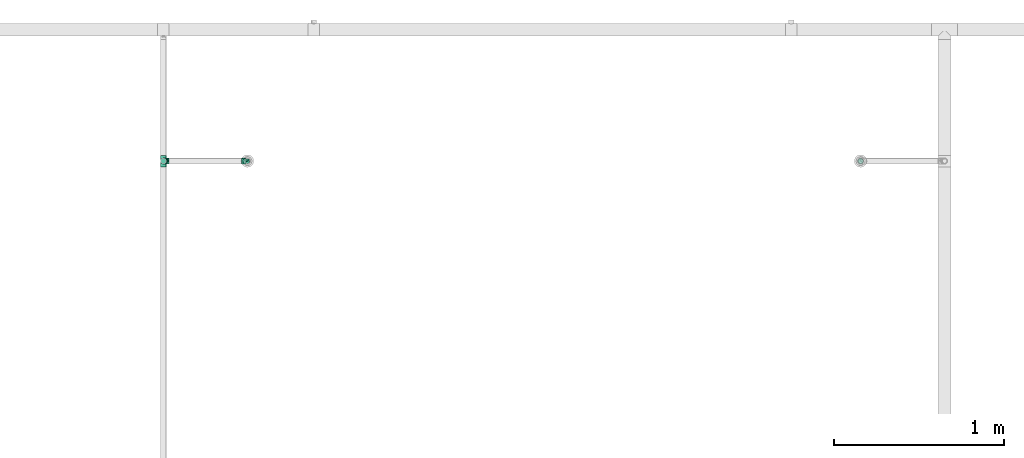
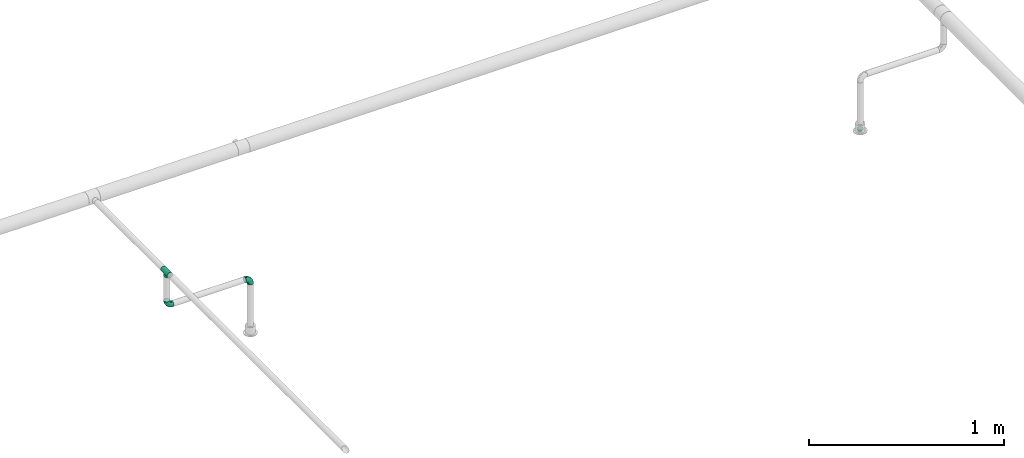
# One storey, part 80 of 95: 4 flow fittings.
"""IFC2X3 building model written with IfcOpenShell, lengths in millimetres."""

from ifc_helpers import new_model, entity, si_unit, converted_unit, derived_unit, direction, frame, origin_with_axes, place, context, subcontext, project, spatial, open_shell, surface_model, source, transform, mapped, type_object, element, save


model = new_model("IFC2X3")

# Units and contexts
model_context = context("Model", 3, precision=0.01, world=frame((0.0, 4.29681676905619e-09, 0.0)), true_north=direction((4.01073788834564e-13, 1.0)))
plan_context = context("Plan", 3, precision=0.01, world=frame((0.0, 4.29681676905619e-09, 0.0)), true_north=direction((4.01073788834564e-13, 1.0)))
body_context = subcontext(model_context, "Body", "Model", "MODEL_VIEW")
ifc_project = project(units=[converted_unit("PLANEANGLEUNIT", "DEGREE", entity("IfcPositiveLengthMeasure", 0.0174532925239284), si_unit("PLANEANGLEUNIT", "RADIAN"), dimensions=[0, 0, 0, 0, 0, 0, 0]), si_unit("AREAUNIT", "SQUARE_METRE"), si_unit("LENGTHUNIT", "METRE", prefix="MILLI"), si_unit("MASSUNIT", "GRAM", prefix="KILO"), si_unit("POWERUNIT", "WATT"), si_unit("PRESSUREUNIT", "PASCAL"), si_unit("FORCEUNIT", "NEWTON", prefix="KILO"), si_unit("ELECTRICVOLTAGEUNIT", "VOLT"), si_unit("ELECTRICCURRENTUNIT", "AMPERE"), si_unit("THERMODYNAMICTEMPERATUREUNIT", "DEGREE_CELSIUS"), si_unit("TIMEUNIT", "SECOND"), si_unit("VOLUMEUNIT", "CUBIC_METRE"), derived_unit("LINEARVELOCITYUNIT", [(si_unit("LENGTHUNIT", "METRE"), 1), (si_unit("TIMEUNIT", "SECOND"), -1)]), derived_unit("VOLUMETRICFLOWRATEUNIT", [(si_unit("VOLUMEUNIT", "CUBIC_METRE"), 1), (si_unit("TIMEUNIT", "SECOND"), -1)]), derived_unit("THERMALTRANSMITTANCEUNIT", [(si_unit("POWERUNIT", "WATT"), 1), (si_unit("THERMODYNAMICTEMPERATUREUNIT", "KELVIN"), -1), (si_unit("AREAUNIT", "SQUARE_METRE"), -1)]), derived_unit("SOUNDPRESSUREUNIT", [(si_unit("PRESSUREUNIT", "PASCAL"), 1)])], contexts=[model_context, plan_context])

# Site, building, storey
site_placement = place(None, frame((0.0, -4.29681676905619e-09, 0.0), z_axis=(0.0, 0.0, 1.0), x_axis=(1.0, 0.0, 0.0)))
site = spatial("IfcSite", under=ifc_project, at=site_placement, CompositionType="ELEMENT")
building_placement = place(site_placement, frame((0.0, 4.29681676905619e-09, 0.0), z_axis=(0.0, 0.0, 1.0), x_axis=(1.0, 0.0, 0.0)))
building = spatial("IfcBuilding", under=site, at=building_placement, Name="mc-building", CompositionType="ELEMENT")
storey_placement = place(building_placement, frame((0.0, 0.0, 210900.0), z_axis=(0.0, 0.0, 1.0), x_axis=(1.0, 0.0, 0.0)))
storey = spatial("IfcBuildingStorey", under=building, at=storey_placement, Name="Nivå F", CompositionType="ELEMENT", Elevation=210900.0)

# Flow fittings
pipe_fitting_type_1 = type_object("IfcPipeFittingType", Name="magi_pipe_fe_elbow_short_001", PredefinedType="BEND")
shared_shape_1 = source(origin_with_axes(), body_context, "Body", "SurfaceModel", [
    surface_model("IfcShellBasedSurfaceModel", [(-33.8, 8.45, -14.63583), (-33.8, 4.37404, -16.32415), (-33.8, 11.9501, -11.9501), (-33.8, -11.9501, -11.9501), (-33.8, -14.63583, -8.45), (-33.8, -8.45, -14.63583), (-33.8, 0.0, -16.9), (-33.8, -4.37404, -16.32415), (-33.8, -4.37404, 16.32415), (-33.8, 0.0, 16.9), (-33.8, -8.45, 14.63583), (-33.8, 16.32415, -4.37404), (-33.8, 14.63583, -8.45), (-33.8, -16.32415, -4.37404), (-33.8, -16.9, 0.0), (-33.8, -16.32415, 4.37404), (-33.8, 11.9501, 11.9501), (-33.8, 14.63583, 8.45), (-33.8, 16.32415, 4.37404), (-33.8, 4.37404, 16.32415), (-33.8, 8.45, 14.63583), (-33.8, -14.63583, 8.45), (-33.8, -11.9501, 11.9501), (-33.8, 16.9, 0.0), (-11.9501, 33.8, -11.9501), (0.0, 33.8, -16.9), (-4.37404, 33.8, -16.32415), (-8.45, 33.8, -14.63583), (-14.63583, 33.8, -8.45), (-16.32415, 33.8, -4.37404), (14.63583, 33.8, -8.45), (8.45, 33.8, 14.63583), (16.32415, 33.8, -4.37404), (8.45, 33.8, -14.63583), (11.9501, 33.8, -11.9501), (4.37404, 33.8, -16.32415), (16.32415, 33.8, 4.37404), (16.9, 33.8, 0.0), (-11.9501, 33.8, 11.9501), (-16.32415, 33.8, 4.37404), (-14.63583, 33.8, 8.45), (-8.45, 33.8, 14.63583), (-4.37404, 33.8, 16.32415), (11.9501, 33.8, 11.9501), (14.63583, 33.8, 8.45), (0.0, 33.8, 16.9), (4.37404, 33.8, 16.32415), (-16.9, 33.8, 0.0), (-24.79389, -13.12945, 9.48721), (-22.19287, -9.75018, 12.59315), (-24.09897, -14.97035, 0.0), (-14.93934, -10.76256, 8.5297), (-22.46095, -14.75051, 5.27077), (14.75051, 22.46094, 5.27077), (11.9251, 13.23888, 4.33236), (13.04069, 14.39795, 0.0), (7.71387, 13.68847, 11.55891), (9.75018, 22.19287, 12.59315), (4.10169, 13.0571, 14.04018), (-24.84007, -6.39063, 15.2048), (-25.81779, -2.23879, 16.61097), (-23.66549, 2.59054, 16.87119), (-26.50418, 14.06512, 11.08152), (-24.21253, 17.66365, 7.72657), (-29.58514, 15.86957, 7.00283), (-6.17382, -7.5455, 0.0), (-13.23888, -11.9251, 4.33236), (-14.39795, -13.04069, 0.0), (-17.81434, 18.87373, 11.97104), (-6.30846, 29.15138, 15.82987), (-2.31622, 25.28002, 16.85849), (-29.23923, 10.23435, 13.77053), (-1.45439, -2.85688, 7.61475), (-0.28326, 0.34872, 10.09509), (-5.74484, -4.04709, 10.4122), (-4.41137, 11.31918, 16.59407), (-8.39727, 3.10034, 15.7812), (-1.72649, 9.1306, 15.53089), (-17.39909, 24.75344, 7.64977), (-26.19233, 20.0512, 0.0), (-28.14518, 17.29657, 4.25857), (-26.05147, 6.6281, 15.96447), (-5.87354, 16.61944, 16.86968), (-12.51807, 12.51807, 16.48937), (-10.06312, 7.38516, 16.81295), (-3.01882, 3.01882, 13.81718), (-13.0571, -4.10169, 14.04018), (-16.82553, -0.15166, 16.38038), (10.76256, 14.93934, 8.5297), (13.12945, 24.79389, 9.48721), (6.39063, 24.84007, 15.2048), (2.23879, 25.81779, 16.61097), (-13.68847, -7.71387, 11.55891), (14.97035, 24.09897, 0.0), (-7.30894, 22.89991, 16.09489), (-10.67958, 26.17414, 14.008), (-12.78295, 18.26924, 15.06066), (-13.88562, 22.45231, 12.93244), (-18.04944, 15.16501, 14.04434), (-23.11658, 20.08178, 4.02986), (-21.84989, 21.84989, 0.0), (-18.55817, 25.48277, 3.93065), (-13.95142, 26.94732, 11.03289), (-18.57098, 7.23906, 16.59756), (-16.58335, 4.14122, 16.89279), (-17.96666, 11.46709, 15.63151), (-9.84453, 17.54304, 16.18938), (0.15166, 16.82553, 16.38038), (-23.27207, 11.47201, 14.23154), (3.84842, 5.86994, 10.70473), (-8.0212, -7.54413, 7.93275), (1.00345, -2.19508, 4.57414), (5.13203, 3.01004, 5.90201), (5.24161, 1.7543, 2.53265), (8.70457, 7.04947, 3.99182), (-20.0512, 26.19233, 0.0), (8.4852, 8.76699, 7.09296), (-4.55488, -6.72064, 4.90681), (2.05031, -2.05031, 0.0), (7.5455, 6.17382, 0.0), (-26.75399, 2.1369, -16.845), (-14.61995, 24.73803, -11.27736), (-28.45274, -13.45335, -9.81895), (-26.00469, 6.63555, -15.96645), (-23.06726, 20.04573, -4.26202), (-13.80647, -4.26506, -14.17873), (-14.67501, -0.21081, -16.07388), (-6.7902, -0.2828, -13.8478), (-24.53586, 11.08096, -14.13417), (-26.72048, 14.00837, -11.05776), (10.0967, 24.44989, -12.75976), (5.83237, 21.40218, -15.03047), (6.66249, 28.54238, -15.38093), (-20.38182, 15.48705, -12.74596), (12.53268, 21.23441, -9.15363), (12.54494, 15.67504, -5.54878), (9.7522, 12.89279, -8.66343), (-15.65186, 19.64213, -13.01327), (-12.03528, 20.66498, -14.67665), (-15.61907, 15.61906, -14.83879), (-25.56551, -15.26206, 0.0), (-24.65452, -15.12934, -5.50955), (13.45335, 28.45274, -9.81895), (15.12934, 24.65452, -5.50955), (-7.35442, -8.31014, -5.65563), (-15.67504, -12.54494, -5.54878), (-24.44989, -10.0967, -12.75976), (0.16522, 0.41303, -9.71728), (-5.70658, -5.33066, -8.89288), (-5.13869, -2.37198, -11.53565), (-21.23441, -12.53268, -9.15363), (0.71146, 7.93863, -14.09382), (0.21081, 14.67501, -16.07388), (3.49291, 14.42772, -14.76381), (-24.89911, -2.13088, -16.591), (-28.54238, -6.66249, -15.38093), (-18.44386, -7.71663, -13.26957), (2.13088, 24.89911, -16.591), (-28.64342, 17.44413, -2.89318), (1.70017, -1.28722, -5.09504), (-16.57067, 26.81947, -7.36596), (-17.69055, 27.4263, -3.76405), (-12.89279, -9.7522, -8.66343), (-5.96611, 5.96611, -15.95814), (-20.53709, 20.09345, -8.28985), (-2.1369, 26.75399, -16.845), (-6.89872, 24.58781, -16.02578), (-10.60739, 26.53157, -13.98044), (-21.40218, -5.83237, -15.03047), (2.93192, 5.89627, -11.55917), (6.89393, 12.61842, -11.82233), (5.58056, 5.95325, -8.79455), (-3.99512, 18.61798, -16.89635), (8.31014, 7.35442, -5.65563), (-9.1383, 9.86148, -16.89041), (-9.99983, 16.02119, -16.39699), (-16.68576, 9.78031, -16.34199), (-27.01915, 16.61158, -7.12979), (15.26206, 25.56551, 0.0), (-18.61798, 3.99512, -16.89635), (-19.37495, 27.82495, 0.0), (-12.61842, -6.89393, -11.82233), (-18.84705, 19.14018, -10.96545)], [open_shell([[[0, 1, 2]], [[3, 4, 5]], [[6, 7, 5]], [[8, 9, 10]], [[1, 6, 2]], [[11, 12, 2]], [[4, 2, 6]], [[2, 13, 10]], [[5, 4, 6]], [[2, 4, 13]], [[14, 15, 13]], [[11, 2, 16]], [[11, 17, 18]], [[11, 16, 17]], [[19, 20, 16]], [[16, 2, 10]], [[19, 16, 10]], [[21, 22, 15]], [[22, 13, 15]], [[22, 10, 13]], [[10, 9, 19]], [[11, 18, 23]], [[24, 25, 26]], [[24, 26, 27]], [[24, 28, 29]], [[25, 24, 30]], [[31, 32, 24]], [[33, 30, 34]], [[33, 35, 25]], [[25, 30, 33]], [[32, 30, 24]], [[32, 36, 37]], [[38, 24, 29]], [[39, 40, 29]], [[40, 38, 29]], [[38, 41, 42]], [[38, 31, 24]], [[31, 38, 42]], [[36, 43, 44]], [[36, 32, 43]], [[31, 45, 46]], [[32, 31, 43]], [[42, 45, 31]], [[39, 29, 47]], [[22, 48, 49]], [[15, 14, 50]], [[51, 48, 52]], [[53, 54, 55]], [[48, 22, 21]], [[15, 52, 21]], [[56, 57, 58]], [[49, 10, 22]], [[49, 59, 10]], [[9, 60, 61]], [[62, 63, 64]], [[65, 66, 67]], [[57, 43, 31]], [[62, 68, 63]], [[42, 69, 70]], [[20, 71, 16]], [[8, 60, 9]], [[72, 73, 74]], [[75, 76, 77]], [[16, 62, 17]], [[40, 39, 78]], [[79, 23, 80]], [[64, 18, 17]], [[9, 61, 19]], [[19, 81, 20]], [[82, 83, 84]], [[74, 85, 86]], [[59, 86, 87]], [[88, 89, 57]], [[90, 31, 46]], [[44, 53, 36]], [[46, 45, 91]], [[54, 53, 88]], [[44, 89, 53]], [[92, 86, 49]], [[89, 44, 43]], [[10, 59, 8]], [[53, 55, 93]], [[93, 36, 53]], [[66, 52, 67]], [[94, 82, 70]], [[95, 96, 94]], [[97, 98, 96]], [[79, 99, 100]], [[41, 38, 95]], [[101, 100, 99]], [[68, 78, 63]], [[42, 41, 69]], [[23, 18, 80]], [[95, 94, 69]], [[78, 101, 99]], [[38, 102, 95]], [[70, 45, 42]], [[97, 95, 102]], [[15, 50, 52]], [[90, 57, 31]], [[57, 90, 58]], [[81, 19, 61]], [[103, 104, 84]], [[105, 81, 103]], [[38, 40, 102]], [[106, 96, 83]], [[94, 106, 82]], [[91, 70, 107]], [[71, 62, 16]], [[62, 108, 98]], [[86, 59, 49]], [[67, 52, 50]], [[60, 59, 87]], [[92, 49, 51]], [[86, 85, 76]], [[91, 90, 46]], [[37, 36, 93]], [[107, 77, 58]], [[107, 58, 90]], [[58, 85, 109]], [[110, 74, 92]], [[72, 74, 110]], [[66, 51, 52]], [[72, 111, 112]], [[113, 114, 112]], [[56, 88, 57]], [[52, 48, 21]], [[49, 48, 51]], [[57, 89, 43]], [[53, 89, 88]], [[103, 81, 61]], [[71, 81, 108]], [[18, 64, 80]], [[63, 78, 99]], [[47, 115, 101]], [[101, 115, 100]], [[40, 78, 102]], [[68, 102, 78]], [[97, 96, 95]], [[105, 98, 108]], [[103, 84, 83]], [[107, 70, 82]], [[76, 84, 87]], [[82, 84, 75]], [[70, 91, 45]], [[90, 91, 107]], [[59, 60, 8]], [[61, 60, 87]], [[73, 85, 74]], [[109, 112, 116]], [[103, 61, 104]], [[105, 103, 83]], [[96, 105, 83]], [[81, 105, 108]], [[96, 98, 105]], [[62, 98, 68]], [[61, 87, 104]], [[87, 84, 104]], [[86, 76, 87]], [[77, 76, 85]], [[58, 77, 85]], [[75, 77, 107]], [[82, 75, 107]], [[76, 75, 84]], [[81, 71, 20]], [[62, 71, 108]], [[95, 69, 41]], [[70, 69, 94]], [[62, 64, 17]], [[80, 63, 99]], [[63, 80, 64]], [[80, 99, 79]], [[66, 65, 117]], [[110, 66, 117]], [[112, 114, 116]], [[118, 117, 65]], [[110, 92, 51]], [[112, 111, 113]], [[119, 55, 54]], [[74, 86, 92]], [[58, 109, 56]], [[116, 56, 109]], [[66, 110, 51]], [[72, 110, 117]], [[111, 72, 117]], [[73, 112, 109]], [[117, 118, 111]], [[113, 111, 118]], [[118, 119, 113]], [[114, 119, 54]], [[119, 114, 113]], [[116, 54, 88]], [[54, 116, 114]], [[116, 88, 56]], [[112, 73, 72]], [[85, 73, 109]], [[78, 39, 101]], [[47, 101, 39]], [[102, 68, 97]], [[97, 68, 98]], [[82, 106, 83]], [[94, 96, 106]], [[1, 120, 6]], [[28, 24, 121]], [[3, 122, 4]], [[0, 123, 1]], [[100, 124, 79]], [[125, 126, 127]], [[128, 2, 129]], [[130, 131, 132]], [[128, 129, 133]], [[134, 135, 136]], [[137, 138, 139]], [[128, 0, 2]], [[67, 140, 141]], [[134, 142, 143]], [[141, 13, 4]], [[144, 65, 145]], [[146, 3, 5]], [[147, 148, 149]], [[145, 141, 150]], [[151, 152, 153]], [[154, 7, 6]], [[5, 155, 146]], [[150, 146, 156]], [[155, 5, 7]], [[143, 135, 134]], [[35, 157, 25]], [[23, 79, 158]], [[148, 159, 144]], [[160, 161, 29]], [[145, 162, 144]], [[163, 152, 151]], [[29, 28, 160]], [[121, 164, 160]], [[33, 34, 130]], [[25, 165, 26]], [[26, 165, 166]], [[142, 34, 30]], [[24, 27, 167]], [[124, 161, 164]], [[157, 35, 132]], [[155, 154, 168]], [[123, 0, 128]], [[169, 170, 171]], [[172, 157, 152]], [[26, 166, 27]], [[132, 35, 33]], [[142, 130, 34]], [[168, 154, 126]], [[136, 135, 173]], [[133, 137, 139]], [[2, 12, 129]], [[170, 131, 130]], [[30, 32, 143]], [[172, 174, 175]], [[176, 123, 128]], [[158, 177, 11]], [[135, 55, 119]], [[167, 27, 166]], [[175, 166, 172]], [[137, 167, 138]], [[122, 141, 4]], [[140, 14, 13]], [[32, 37, 178]], [[170, 130, 134]], [[152, 157, 131]], [[165, 157, 172]], [[153, 170, 151]], [[152, 163, 174]], [[168, 125, 156]], [[122, 146, 150]], [[120, 154, 6]], [[179, 174, 126]], [[179, 126, 154]], [[126, 163, 127]], [[162, 145, 150]], [[140, 13, 141]], [[32, 178, 143]], [[55, 143, 178]], [[177, 129, 12]], [[128, 133, 139]], [[176, 128, 139]], [[120, 123, 179]], [[121, 160, 28]], [[161, 100, 180]], [[166, 175, 138]], [[121, 24, 167]], [[161, 47, 29]], [[79, 124, 158]], [[124, 164, 177]], [[161, 124, 100]], [[136, 171, 170]], [[127, 163, 151]], [[147, 171, 159]], [[148, 144, 162]], [[127, 151, 169]], [[127, 181, 125]], [[129, 177, 164]], [[12, 11, 177]], [[159, 65, 144]], [[67, 141, 145]], [[143, 55, 135]], [[135, 119, 173]], [[123, 120, 1]], [[154, 120, 179]], [[157, 165, 25]], [[166, 165, 172]], [[172, 152, 174]], [[176, 139, 175]], [[126, 174, 163]], [[176, 174, 179]], [[174, 176, 175]], [[123, 176, 179]], [[150, 181, 162]], [[127, 149, 181]], [[181, 148, 162]], [[159, 148, 147]], [[171, 136, 173]], [[170, 134, 136]], [[159, 171, 173]], [[171, 147, 169]], [[169, 147, 149]], [[151, 170, 169]], [[164, 182, 129]], [[182, 121, 137]], [[181, 149, 148]], [[169, 149, 127]], [[182, 137, 133]], [[167, 137, 121]], [[166, 138, 167]], [[175, 139, 138]], [[129, 182, 133]], [[121, 182, 164]], [[161, 160, 164]], [[47, 161, 180]], [[177, 158, 124]], [[23, 158, 11]], [[130, 132, 33]], [[157, 132, 131]], [[143, 142, 30]], [[130, 142, 134]], [[154, 155, 7]], [[146, 155, 168]], [[146, 122, 3]], [[141, 122, 150]], [[152, 131, 153]], [[159, 119, 118]], [[67, 145, 65]], [[170, 153, 131]], [[119, 159, 173]], [[159, 118, 65]], [[156, 125, 181]], [[126, 125, 168]], [[150, 156, 181]], [[168, 156, 146]]])]),
])
for number, where, z_axis, x_axis, name in (
    (1, (530497.57166, 461000.75899, 4100.0), (0.0, -1.0, 0.0), (0.0, 0.0, 1.0), "magi_pipe_fe_elbow_short_001"),
    (2, (530002.76487, 461000.75899, 4100.0), (0.0, -1.0, 0.0), (0.0, 0.0, -1.0), "magi_pipe_fe_elbow_short_001"),
):
    element("IfcFlowFitting", number, at=place(storey_placement, frame(where, z_axis=z_axis, x_axis=x_axis)), inside=storey, type_object=pipe_fitting_type_1, Name=name, context=body_context, shape_type="MappedRepresentation", body=[
        mapped(shared_shape_1, transform((0.0, 0.0, 0.0), scale=1.0)),
    ])
pipe_fitting_type_2 = type_object("IfcPipeFittingType", Name="magi_pipe_fe_tee_centric_90_NOR", PredefinedType="JUNCTION")
shared_shape_2 = source(origin_with_axes(), body_context, "Body", "SurfaceModel", [
    surface_model("IfcShellBasedSurfaceModel", [(-33.8, 4.37404, -16.32415), (-33.8, 0.0, -16.9), (-33.8, 16.32415, -4.37404), (-33.8, 8.45, -14.63583), (-33.8, 11.9501, -11.9501), (-33.8, 14.63583, -8.45), (-33.8, -16.9, 0.0), (-33.8, -11.9501, -11.9501), (-33.8, -14.63583, -8.45), (-33.8, -8.45, -14.63583), (-33.8, -4.37404, -16.32415), (-33.8, -16.32415, -4.37404), (-33.8, 14.63583, 8.45), (-33.8, 16.32415, 4.37404), (-33.8, -8.45, 14.63583), (-33.8, 8.45, 14.63583), (-33.8, 11.9501, 11.9501), (-33.8, 4.37404, 16.32415), (-33.8, 0.0, 16.9), (-33.8, -11.9501, 11.9501), (-33.8, -14.63583, 8.45), (-33.8, -16.32415, 4.37404), (-33.8, -4.37404, 16.32415), (-33.8, 16.9, 0.0), (33.8, 4.37404, -16.32415), (33.8, -16.9, 0.0), (33.8, 0.0, -16.9), (33.8, 14.63583, -8.45), (33.8, 8.45, -14.63583), (33.8, 16.32415, -4.37404), (33.8, 11.9501, -11.9501), (33.8, -16.32415, 4.37404), (33.8, -8.45, -14.63583), (33.8, -4.37404, -16.32415), (33.8, -11.9501, -11.9501), (33.8, -14.63583, -8.45), (33.8, -16.32415, -4.37404), (33.8, 16.32415, 4.37404), (33.8, 8.45, 14.63583), (33.8, 14.63583, 8.45), (33.8, 11.9501, 11.9501), (33.8, -8.45, 14.63583), (33.8, 4.37404, 16.32415), (33.8, -14.63583, 8.45), (33.8, -11.9501, 11.9501), (33.8, 0.0, 16.9), (33.8, -4.37404, 16.32415), (33.8, 16.9, 0.0), (16.28698, -16.28698, 4.51047), (16.9, -16.9, 0.0), (14.62704, -14.62704, 8.4652), (9.47213, -9.47213, 13.99602), (12.26343, -12.26343, 11.62834), (-16.9, -16.9, 0.0), (-16.28698, -16.28698, 4.51047), (-14.62704, -14.62704, 8.4652), (-12.26343, -12.26343, 11.62834), (-9.47213, -9.47213, 13.99602), (-6.42894, -6.42894, 15.62942), (6.42894, -6.42894, 15.62942), (3.24522, -3.24522, 16.58549), (0.0, 0.0, 16.9), (-3.24522, -3.24522, 16.58549), (3.24522, -3.24522, -16.58549), (0.0, 0.0, -16.9), (-3.24522, -3.24522, -16.58549), (-6.42894, -6.42894, -15.62942), (6.42894, -6.42894, -15.62942), (9.47213, -9.47213, -13.99602), (12.26343, -12.26343, -11.62834), (14.62704, -14.62704, -8.4652), (16.28698, -16.28698, -4.51047), (-9.47213, -9.47213, -13.99602), (-12.26343, -12.26343, -11.62834), (-16.28698, -16.28698, -4.51047), (-14.62704, -14.62704, -8.4652), (4.37404, -25.35, -16.32415), (-16.9, -25.35, 0.0), (0.0, -25.35, -16.9), (14.63583, -25.35, -8.45), (8.45, -25.35, -14.63583), (16.32415, -25.35, -4.37404), (11.9501, -25.35, -11.9501), (-11.9501, -25.35, -11.9501), (-8.45, -25.35, -14.63583), (-4.37404, -25.35, -16.32415), (-14.63583, -25.35, -8.45), (-16.32415, -25.35, -4.37404), (16.9, -25.35, 0.0), (8.45, -25.35, 14.63583), (16.32415, -25.35, 4.37404), (14.63583, -25.35, 8.45), (-8.45, -25.35, 14.63583), (11.9501, -25.35, 11.9501), (4.37404, -25.35, 16.32415), (-16.32415, -25.35, 4.37404), (-11.9501, -25.35, 11.9501), (-14.63583, -25.35, 8.45), (0.0, -25.35, 16.9), (-4.37404, -25.35, 16.32415)], [open_shell([[[0, 1, 2]], [[3, 0, 4]], [[0, 2, 5]], [[4, 0, 5]], [[6, 2, 1]], [[7, 8, 9]], [[1, 10, 9]], [[11, 6, 8]], [[1, 9, 8]], [[1, 8, 6]], [[6, 12, 2]], [[12, 13, 2]], [[14, 12, 6]], [[12, 14, 15]], [[16, 12, 15]], [[17, 15, 18]], [[19, 14, 20]], [[21, 20, 14]], [[22, 18, 14]], [[14, 6, 21]], [[14, 18, 15]], [[23, 2, 13]], [[24, 25, 26]], [[27, 24, 28]], [[27, 29, 24]], [[27, 28, 30]], [[31, 25, 24]], [[26, 32, 33]], [[26, 34, 32]], [[35, 25, 36]], [[35, 34, 26]], [[25, 35, 26]], [[24, 29, 31]], [[29, 37, 38]], [[38, 37, 39]], [[38, 31, 29]], [[38, 39, 40]], [[41, 38, 42]], [[43, 41, 44]], [[41, 43, 31]], [[41, 45, 46]], [[41, 31, 38]], [[42, 45, 41]], [[29, 47, 37]], [[31, 43, 48]], [[25, 31, 49]], [[49, 31, 48]], [[43, 50, 48]], [[44, 41, 51]], [[50, 43, 52]], [[51, 52, 44]], [[52, 43, 44]], [[53, 54, 21]], [[53, 21, 6]], [[21, 54, 20]], [[54, 55, 20]], [[56, 57, 19]], [[19, 20, 56]], [[19, 57, 14]], [[56, 20, 55]], [[14, 57, 58]], [[51, 41, 59]], [[60, 45, 61]], [[59, 46, 60]], [[46, 59, 41]], [[60, 46, 45]], [[61, 45, 42]], [[39, 37, 13]], [[16, 38, 40]], [[12, 40, 39]], [[42, 38, 15]], [[23, 37, 47]], [[62, 61, 18]], [[62, 22, 58]], [[22, 62, 18]], [[58, 22, 14]], [[61, 17, 18]], [[42, 17, 61]], [[15, 17, 42]], [[15, 38, 16]], [[12, 16, 40]], [[13, 12, 39]], [[37, 23, 13]], [[5, 27, 30]], [[23, 47, 29]], [[30, 28, 3]], [[27, 2, 29]], [[26, 33, 63]], [[26, 64, 24]], [[64, 26, 63]], [[28, 24, 0]], [[64, 0, 24]], [[4, 30, 3]], [[2, 27, 5]], [[5, 30, 4]], [[2, 23, 29]], [[65, 66, 10]], [[1, 0, 64]], [[1, 65, 10]], [[66, 9, 10]], [[0, 3, 28]], [[1, 64, 65]], [[63, 33, 67]], [[32, 34, 68]], [[69, 68, 34]], [[35, 70, 69]], [[69, 34, 35]], [[32, 68, 67]], [[36, 25, 49]], [[36, 71, 35]], [[71, 36, 49]], [[35, 71, 70]], [[72, 9, 66]], [[72, 7, 9]], [[7, 72, 73]], [[7, 73, 8]], [[74, 53, 11]], [[75, 74, 8]], [[74, 11, 8]], [[11, 53, 6]], [[75, 8, 73]], [[32, 67, 33]], [[76, 77, 78]], [[79, 76, 80]], [[79, 81, 76]], [[79, 80, 82]], [[77, 76, 81]], [[78, 83, 84]], [[84, 85, 78]], [[86, 77, 87]], [[83, 78, 86]], [[77, 86, 78]], [[81, 88, 77]], [[89, 88, 90]], [[89, 90, 91]], [[92, 77, 89]], [[89, 91, 93]], [[92, 89, 94]], [[95, 96, 97]], [[96, 95, 92]], [[92, 98, 99]], [[95, 77, 92]], [[94, 98, 92]], [[89, 77, 88]], [[77, 95, 53]], [[54, 53, 95]], [[97, 96, 56]], [[96, 92, 57]], [[95, 97, 54]], [[58, 92, 99]], [[55, 54, 97]], [[56, 55, 97]], [[58, 57, 92]], [[98, 61, 62]], [[58, 99, 62]], [[56, 96, 57]], [[62, 99, 98]], [[94, 60, 98]], [[89, 59, 94]], [[91, 90, 48]], [[52, 93, 91]], [[93, 51, 89]], [[49, 90, 88]], [[59, 60, 94]], [[51, 59, 89]], [[49, 48, 90]], [[50, 52, 91]], [[48, 50, 91]], [[51, 93, 52]], [[98, 60, 61]], [[88, 81, 49]], [[71, 49, 81]], [[79, 82, 69]], [[82, 80, 68]], [[81, 79, 71]], [[67, 80, 76]], [[70, 71, 79]], [[69, 70, 79]], [[67, 68, 80]], [[78, 64, 63]], [[67, 76, 63]], [[69, 82, 68]], [[63, 76, 78]], [[85, 65, 78]], [[84, 66, 85]], [[86, 87, 74]], [[86, 73, 83]], [[72, 84, 83]], [[53, 87, 77]], [[66, 65, 85]], [[72, 66, 84]], [[53, 74, 87]], [[75, 73, 86]], [[74, 75, 86]], [[72, 83, 73]], [[78, 65, 64]]])]),
])
flow_fitting_1_placement = place(storey_placement, frame((530002.76487, 461000.75899, 4310.0), z_axis=(1.0, 0.0, 0.0), x_axis=(0.0, 1.0, 0.0)))
element("IfcFlowFitting", 3, at=flow_fitting_1_placement, inside=storey, type_object=pipe_fitting_type_2, Name="magi_pipe_fe_tee_centric_90_NOR", context=body_context, shape_type="MappedRepresentation", body=[
    mapped(shared_shape_2, transform((0.0, 0.0, 0.0), scale=1.0)),
])
pipe_fitting_type_3 = type_object("IfcPipeFittingType", Name="magi_pipe_fe_reducer_centric_short_NOR", PredefinedType="TRANSITION")
shared_shape_3 = source(origin_with_axes(), body_context, "Body", "SurfaceModel", [
    surface_model("IfcShellBasedSurfaceModel", [(14.4, 10.33541, 2.76936), (14.4, 7.56604, 7.56604), (14.4, 2.76936, 10.33541), (14.4, -2.76936, 10.33541), (14.4, -7.56604, 7.56604), (14.4, -10.33541, 2.76936), (0.0, -11.9501, -11.9501), (0.0, -16.9, 0.0), (0.0, 0.0, -16.9), (0.0, 11.9501, -11.9501), (0.0, 11.9501, 11.9501), (0.0, 16.9, 0.0), (12.4, -6.6875, -6.94985), (0.0, -13.18758, -8.96258), (0.0, 15.66253, -2.98753), (12.4, 10.7, 0.0), (12.4, 6.6875, -6.94985), (0.0, 8.96258, -13.18758), (12.4, 5.35, -9.26647), (0.0, 5.97505, -14.42505), (0.0, -8.96258, -13.18758), (12.4, -10.7, 0.0), (0.0, -15.66253, -2.98753), (0.0, -5.97505, -14.42505), (12.4, -5.35, -9.26647), (12.4, 9.3625, -2.31662), (12.4, 8.025, -4.63324), (0.0, 14.42505, -5.97505), (0.0, -14.42505, -5.97505), (12.4, -8.025, -4.63324), (12.4, -9.3625, -2.31662), (12.4, -2.675, -9.26647), (0.0, -2.98753, -15.66253), (0.0, 13.18758, -8.96258), (0.0, 2.98753, -15.66253), (12.4, 2.675, -9.26647), (12.4, 6.6875, 6.94985), (0.0, 13.18758, 8.96258), (0.0, -15.66253, 2.98753), (0.0, -11.9501, 11.9501), (12.4, -6.6875, 6.94985), (0.0, -8.96258, 13.18758), (12.4, -5.35, 9.26647), (0.0, -5.97505, 14.42505), (0.0, 8.96258, 13.18758), (0.0, 15.66253, 2.98753), (0.0, 5.97505, 14.42505), (12.4, 5.35, 9.26647), (12.4, -9.3625, 2.31662), (12.4, -8.025, 4.63324), (0.0, -14.42505, 5.97505), (0.0, 14.42505, 5.97505), (12.4, 8.025, 4.63324), (12.4, 9.3625, 2.31662), (12.4, 2.675, 9.26647), (0.0, 2.98753, 15.66253), (0.0, -13.18758, 8.96258), (0.0, -2.98753, 15.66253), (12.4, -2.675, 9.26647), (14.4, -2.76936, -10.33541), (14.4, 0.0, -10.7), (14.4, -5.35, -9.26647), (14.4, -7.56604, -7.56604), (14.4, -10.33541, -2.76936), (14.4, 10.33541, -2.76936), (14.4, -9.26647, -5.35), (14.4, 0.0, 10.7), (14.4, 2.76936, -10.33541), (14.4, 5.35, -9.26647), (14.4, 9.26647, -5.35), (14.4, 7.56604, -7.56604), (14.4, -10.7, 0.0), (14.4, -9.26647, 5.35), (14.4, -5.35, 9.26647), (14.4, 9.26647, 5.35), (14.4, 10.7, 0.0), (14.4, 5.35, 9.26647), (12.4, 0.0, 10.7), (12.4, 10.33541, -2.76936), (12.4, -2.76936, 10.33541), (12.4, -10.33541, 2.76936), (12.4, -9.26647, 5.35), (12.4, -7.56604, 7.56604), (12.4, 10.33541, 2.76936), (12.4, 7.56604, 7.56604), (12.4, 2.76936, 10.33541), (12.4, 9.26647, 5.35), (12.4, -10.33541, -2.76936), (12.4, -9.26647, -5.35), (12.4, -7.56604, -7.56604), (12.4, -2.76936, -10.33541), (12.4, 7.56604, -7.56604), (12.4, 9.26647, -5.35), (12.4, 2.76936, -10.33541), (12.4, 0.0, -10.7), (-2.0, -4.37404, 16.32415), (-2.0, 0.0, 16.9), (-2.0, -11.9501, 11.9501), (-2.0, -8.45, 14.63583), (-2.0, -16.32415, 4.37404), (-2.0, -14.63583, 8.45), (-2.0, 16.32415, 4.37404), (-2.0, 11.9501, 11.9501), (-2.0, 14.63583, 8.45), (-2.0, 8.45, 14.63583), (-2.0, 4.37404, 16.32415), (-2.0, 16.9, 0.0), (-2.0, 16.32415, -4.37404), (-2.0, 8.45, -14.63583), (-2.0, -11.9501, -11.9501), (-2.0, -16.32415, -4.37404), (-2.0, -14.63583, -8.45), (-2.0, -4.37404, -16.32415), (-2.0, -8.45, -14.63583), (-2.0, 0.0, -16.9), (-2.0, 14.63583, -8.45), (-2.0, 11.9501, -11.9501), (-2.0, 4.37404, -16.32415), (-2.0, -16.9, 0.0), (0.0, -8.45, -14.63583), (0.0, -4.37404, -16.32415), (0.0, 8.45, -14.63583), (0.0, -14.63583, -8.45), (0.0, -16.32415, -4.37404), (0.0, -4.37404, 16.32415), (0.0, 4.37404, -16.32415), (0.0, 14.63583, -8.45), (0.0, 16.32415, -4.37404), (0.0, -16.32415, 4.37404), (0.0, -14.63583, 8.45), (0.0, -8.45, 14.63583), (0.0, 0.0, 16.9), (0.0, 16.32415, 4.37404), (0.0, 14.63583, 8.45), (0.0, 8.45, 14.63583), (0.0, 4.37404, 16.32415), (12.4, 0.0, -9.26647), (12.4, 0.0, 9.26647)], [open_shell([[[0, 1, 2]], [[3, 4, 5]], [[6, 7, 8]], [[9, 10, 11]], [[6, 12, 13]], [[14, 11, 15]], [[9, 16, 17]], [[18, 19, 17]], [[20, 12, 6]], [[21, 7, 22]], [[20, 23, 24]], [[25, 26, 27]], [[28, 29, 30]], [[31, 23, 32]], [[29, 28, 13]], [[33, 16, 9]], [[33, 27, 26]], [[29, 13, 12]], [[34, 19, 35]], [[10, 36, 37]], [[38, 7, 21]], [[39, 40, 41]], [[42, 43, 41]], [[44, 36, 10]], [[15, 11, 45]], [[44, 46, 47]], [[48, 49, 50]], [[51, 52, 53]], [[54, 46, 55]], [[52, 51, 37]], [[56, 40, 39]], [[56, 50, 49]], [[52, 37, 36]], [[57, 43, 58]], [[59, 60, 61]], [[62, 61, 63]], [[63, 61, 64]], [[65, 62, 63]], [[63, 64, 66]], [[67, 68, 60]], [[68, 61, 60]], [[69, 64, 70]], [[68, 70, 64]], [[68, 64, 61]], [[5, 71, 63]], [[4, 72, 5]], [[3, 63, 66]], [[73, 4, 3]], [[64, 0, 66]], [[74, 1, 0]], [[0, 64, 75]], [[76, 2, 1]], [[0, 2, 66]], [[63, 3, 5]], [[77, 78, 79]], [[79, 78, 42]], [[80, 81, 82]], [[42, 78, 82]], [[78, 77, 83]], [[47, 84, 85]], [[83, 85, 84]], [[86, 83, 84]], [[83, 77, 85]], [[15, 78, 83]], [[82, 87, 80]], [[87, 82, 78]], [[88, 87, 24]], [[24, 87, 78]], [[89, 88, 24]], [[90, 24, 78]], [[91, 18, 92]], [[78, 92, 18]], [[93, 94, 18]], [[90, 78, 18]], [[18, 94, 90]], [[21, 80, 87]], [[15, 64, 78]], [[78, 69, 92]], [[18, 91, 68]], [[70, 91, 92]], [[93, 18, 67]], [[64, 69, 78]], [[15, 75, 64]], [[18, 68, 67]], [[68, 91, 70]], [[92, 69, 70]], [[93, 67, 60]], [[60, 94, 93]], [[94, 59, 90]], [[90, 61, 24]], [[88, 89, 65]], [[62, 89, 24]], [[87, 88, 63]], [[61, 62, 24]], [[90, 59, 61]], [[87, 63, 71]], [[63, 88, 65]], [[89, 62, 65]], [[87, 71, 21]], [[60, 59, 94]], [[21, 5, 80]], [[80, 72, 81]], [[42, 82, 73]], [[4, 82, 81]], [[79, 42, 3]], [[5, 72, 80]], [[21, 71, 5]], [[42, 73, 3]], [[73, 82, 4]], [[81, 72, 4]], [[79, 3, 66]], [[66, 77, 79]], [[77, 2, 85]], [[85, 76, 47]], [[86, 84, 74]], [[1, 84, 47]], [[83, 86, 0]], [[76, 1, 47]], [[85, 2, 76]], [[83, 0, 75]], [[0, 86, 74]], [[84, 1, 74]], [[83, 75, 15]], [[66, 2, 77]], [[95, 96, 97]], [[98, 95, 97]], [[99, 100, 97]], [[96, 99, 97]], [[101, 99, 96]], [[102, 103, 104]], [[96, 105, 104]], [[96, 104, 103]], [[103, 101, 96]], [[106, 107, 101]], [[108, 99, 101]], [[109, 110, 99]], [[111, 110, 109]], [[112, 113, 109]], [[109, 99, 108]], [[109, 114, 112]], [[115, 116, 107]], [[108, 107, 116]], [[117, 114, 108]], [[108, 101, 107]], [[108, 114, 109]], [[118, 99, 110]], [[6, 119, 120]], [[6, 120, 8]], [[121, 11, 6]], [[122, 6, 123]], [[6, 124, 123]], [[125, 121, 8]], [[121, 6, 8]], [[126, 127, 9]], [[121, 9, 127]], [[127, 11, 121]], [[128, 7, 123]], [[39, 129, 128]], [[124, 39, 128]], [[6, 11, 124]], [[130, 39, 124]], [[131, 124, 11]], [[132, 133, 131]], [[131, 11, 132]], [[10, 134, 133]], [[134, 131, 133]], [[135, 131, 134]], [[128, 123, 124]], [[106, 127, 107]], [[107, 126, 115]], [[108, 116, 121]], [[9, 116, 115]], [[117, 108, 125]], [[127, 126, 107]], [[106, 11, 127]], [[108, 121, 125]], [[121, 116, 9]], [[115, 126, 9]], [[117, 125, 8]], [[8, 114, 117]], [[114, 120, 112]], [[112, 119, 113]], [[111, 109, 122]], [[6, 109, 113]], [[110, 111, 123]], [[119, 6, 113]], [[112, 120, 119]], [[110, 123, 7]], [[123, 111, 122]], [[109, 6, 122]], [[110, 7, 118]], [[8, 120, 114]], [[118, 128, 99]], [[99, 129, 100]], [[98, 97, 130]], [[39, 97, 100]], [[95, 98, 124]], [[128, 129, 99]], [[118, 7, 128]], [[98, 130, 124]], [[130, 97, 39]], [[100, 129, 39]], [[95, 124, 131]], [[131, 96, 95]], [[96, 135, 105]], [[105, 134, 104]], [[103, 102, 133]], [[10, 102, 104]], [[101, 103, 132]], [[134, 10, 104]], [[105, 135, 134]], [[101, 132, 11]], [[132, 103, 133]], [[102, 10, 133]], [[101, 11, 106]], [[131, 135, 96]], [[15, 47, 42]], [[24, 15, 42]], [[21, 24, 42]], [[18, 15, 24]], [[10, 7, 39]], [[39, 131, 10]], [[10, 8, 7]], [[8, 10, 9]], [[22, 28, 30]], [[22, 30, 21]], [[31, 24, 23]], [[24, 12, 20]], [[27, 14, 25]], [[8, 34, 136]], [[18, 17, 16]], [[35, 136, 34]], [[32, 8, 136]], [[26, 16, 33]], [[25, 14, 15]], [[35, 19, 18]], [[31, 32, 136]], [[45, 51, 53]], [[45, 53, 15]], [[54, 47, 46]], [[47, 36, 44]], [[50, 38, 48]], [[131, 57, 137]], [[42, 41, 40]], [[58, 137, 57]], [[55, 131, 137]], [[49, 40, 56]], [[48, 38, 21]], [[58, 43, 42]], [[54, 55, 137]]])]),
])
flow_fitting_2_placement = place(storey_placement, frame((534107.98071, 461000.75899, 3769.25200000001), z_axis=(0.0, -1.0, 0.0), x_axis=(0.0, 0.0, -1.0)))
element("IfcFlowFitting", 4, at=flow_fitting_2_placement, inside=storey, type_object=pipe_fitting_type_3, Name="magi_pipe_fe_reducer_centric_short_NOR", context=body_context, shape_type="MappedRepresentation", body=[
    mapped(shared_shape_3, transform((0.0, 0.0, 0.0), scale=1.0)),
])

save(model, "model.ifc")
